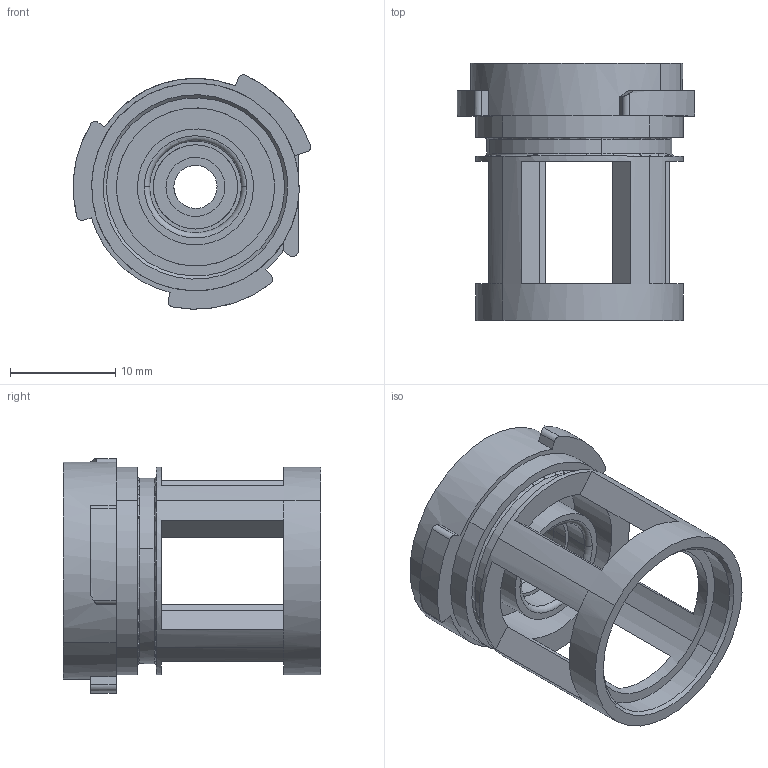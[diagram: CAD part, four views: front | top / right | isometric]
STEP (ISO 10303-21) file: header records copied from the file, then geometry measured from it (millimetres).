
FILE_DESCRIPTION(('CATIA V5 STEP Exchange'),'2;1');
FILE_NAME('F:\1.项目开发\12.模块开发\1.气阀产品\3.VDC阀\膜片式结构\VDC-MP03.stp','2021-12-15T01:32:03+00:00',('none'),('none'),'CATIA Version 5 Release 20 GA (IN-10)','CATIA V5 STEP AP214','none');
FILE_SCHEMA(('AUTOMOTIVE_DESIGN { 1 0 10303 214 1 1 1 1 }'));
Length unit declared in the file: millimetre
Products named in the file (1): VDC-MP03
Bounding box: 22.51 x 24.4 x 22.23 mm (x, y, z)
Volume: 2670.5 mm3; surface area: 3441.4 mm2
Topology: 1 solids, 1 shells, 125 faces, 335 edges, 220 vertices
Faces by surface type: cylinder 61, plane 52, torus 10, cone 2
Entity records: 4053 total; most frequent: CARTESIAN_POINT 1097, ORIENTED_EDGE 670, DIRECTION 478, EDGE_CURVE 335, AXIS2_PLACEMENT_3D 235, VERTEX_POINT 220, VECTOR 147, LINE 147
